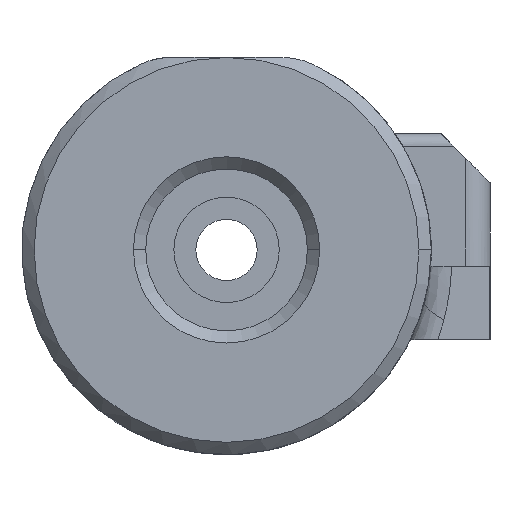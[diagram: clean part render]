
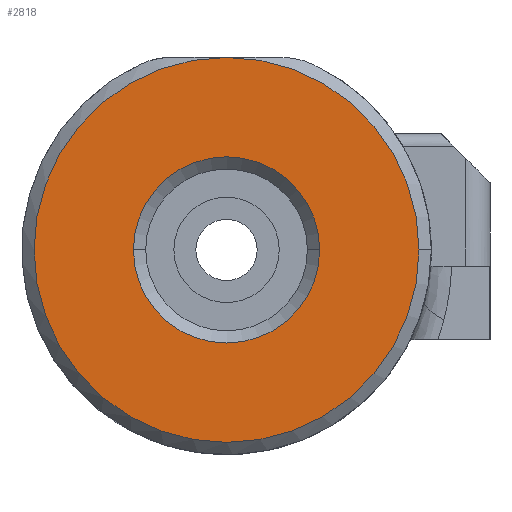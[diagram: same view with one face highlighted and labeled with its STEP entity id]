
A CAD part, left-side view. The second image highlights one B-rep face of the part: STEP entity #2818.
In plain terms, the highlighted planar face has unit normal (-1, 0, 0).
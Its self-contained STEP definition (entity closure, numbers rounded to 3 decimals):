
#903=CARTESIAN_POINT('',(-33.5,55.25,3.661));
#904=DIRECTION('',(-1.,0.,0.));
#905=DIRECTION('',(0.,0.,1.));
#906=AXIS2_PLACEMENT_3D('',#903,#904,#905);
#921=CARTESIAN_POINT('',(-33.5,55.25,3.661));
#922=DIRECTION('',(1.,0.,0.));
#923=DIRECTION('',(0.,-1.,0.));
#924=AXIS2_PLACEMENT_3D('',#921,#922,#923);
#926=CARTESIAN_POINT('',(-33.5,55.25,3.661));
#927=DIRECTION('',(1.,0.,0.));
#928=DIRECTION('',(0.,1.,0.));
#929=AXIS2_PLACEMENT_3D('',#926,#927,#928);
#931=CARTESIAN_POINT('',(-33.5,55.25,3.661));
#932=DIRECTION('',(-1.,0.,0.));
#933=DIRECTION('',(0.,-1.,0.));
#934=AXIS2_PLACEMENT_3D('',#931,#932,#933);
#1453=CARTESIAN_POINT('',(-33.5,51.45,3.661));
#1454=CARTESIAN_POINT('',(-33.5,59.05,3.661));
#1455=VERTEX_POINT('',#1453);
#1456=VERTEX_POINT('',#1454);
#1461=CARTESIAN_POINT('',(-33.5,47.395,3.661));
#1463=VERTEX_POINT('',#1461);
#1573=CARTESIAN_POINT('',(-33.5,55.25,11.516));
#1574=VERTEX_POINT('',#1573);
#2803=CARTESIAN_POINT('',(-33.5,49.,0.));
#2804=DIRECTION('',(1.,0.,0.));
#2805=DIRECTION('',(0.,1.,0.));
#2806=AXIS2_PLACEMENT_3D('',#2803,#2804,#2805);
#2807=PLANE('',#2806);
#2808=ORIENTED_EDGE('',*,*,#2767,.F.);
#2809=ORIENTED_EDGE('',*,*,#2782,.F.);
#2810=EDGE_LOOP('',(#2808,#2809));
#2811=FACE_OUTER_BOUND('',#2810,.F.);
#2813=ORIENTED_EDGE('',*,*,#2812,.F.);
#2815=ORIENTED_EDGE('',*,*,#2814,.F.);
#2816=EDGE_LOOP('',(#2813,#2815));
#2817=FACE_BOUND('',#2816,.F.);
#2818=ADVANCED_FACE('',(#2811,#2817),#2807,.F.);
#907=CIRCLE('',#906,7.855);
#925=CIRCLE('',#924,3.8);
#930=CIRCLE('',#929,3.8);
#935=CIRCLE('',#934,7.855);
#2767=EDGE_CURVE('',#1463,#1574,#935,.T.);
#2782=EDGE_CURVE('',#1574,#1463,#907,.T.);
#2812=EDGE_CURVE('',#1455,#1456,#925,.T.);
#2814=EDGE_CURVE('',#1456,#1455,#930,.T.);
